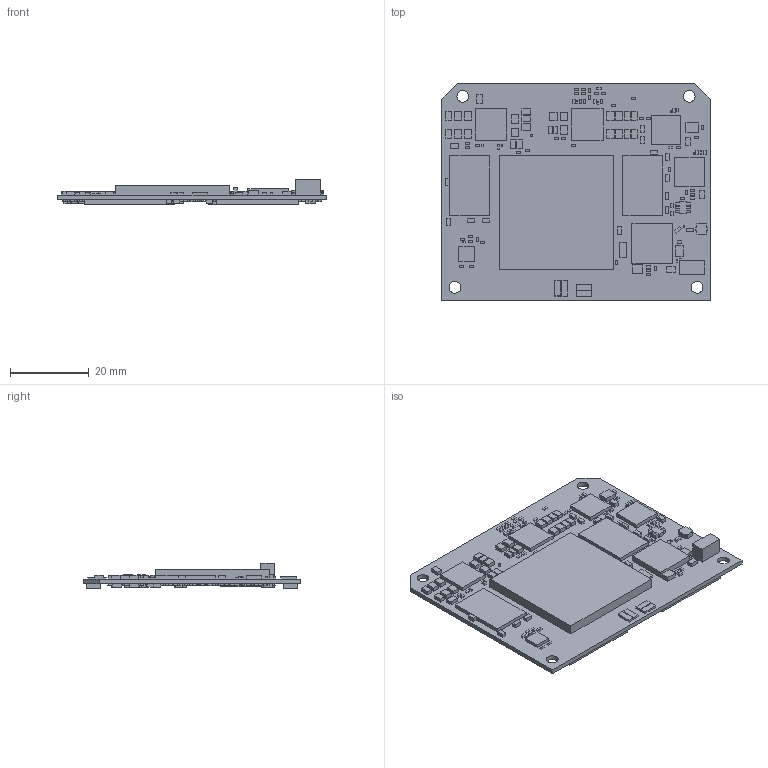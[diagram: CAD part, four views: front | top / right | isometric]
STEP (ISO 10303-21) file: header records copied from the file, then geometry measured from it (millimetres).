
FILE_DESCRIPTION (( 'STEP AP203' ), '1' );
FILE_NAME ('SPEAR-MX8_Rev1.3.STEP', '2021-11-22T07:07:15', ( '' ), ( '' ), 'SwSTEP 2.0', 'SolidWorks 2020', '' );
FILE_SCHEMA (( 'CONFIG_CONTROL_DESIGN' ));
Length unit declared in the file: millimetre
Products named in the file (1): SPEAR-MX8_Rev1.3
Bounding box: 68 x 55 x 6.47 mm (x, y, z)
Volume: 8083.5 mm3; surface area: 14718.6 mm2
Topology: 475 solids, 475 shells, 2922 faces, 5916 edges, 3944 vertices
Faces by surface type: plane 2912, cylinder 10
Entity records: 73745 total; most frequent: CARTESIAN_POINT 12783, ORIENTED_EDGE 11832, DIRECTION 11782, EDGE_CURVE 5916, VECTOR 5896, LINE 5896, VERTEX_POINT 3944, AXIS2_PLACEMENT_3D 2943
